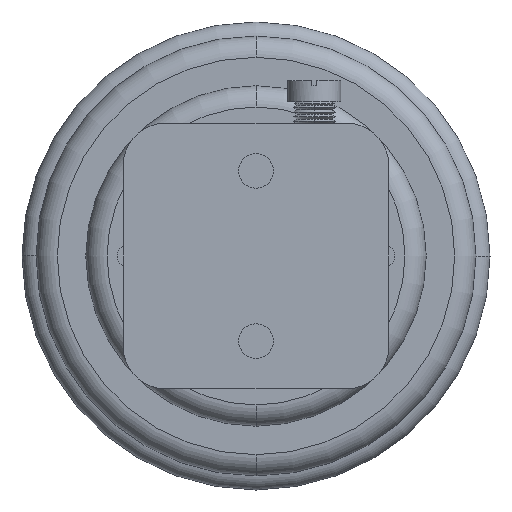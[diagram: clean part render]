
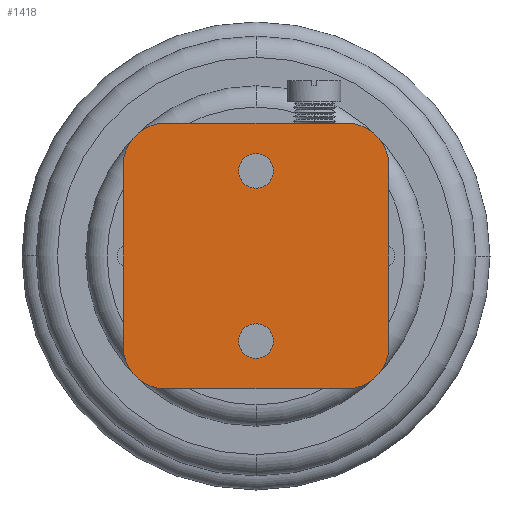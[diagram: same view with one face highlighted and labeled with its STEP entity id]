
A CAD part, front view. The second image highlights one B-rep face of the part: STEP entity #1418.
In plain terms, the highlighted planar face has unit normal (0, -1, 0).
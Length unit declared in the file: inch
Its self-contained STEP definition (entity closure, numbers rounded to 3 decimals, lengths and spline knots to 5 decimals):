
#731 = EDGE_CURVE ( 'NONE', #13173, #13142, #5303, .T. ) ;
#736 = EDGE_CURVE ( 'NONE', #12907, #13242, #5311, .T. ) ;
#739 = EDGE_CURVE ( 'NONE', #13226, #12866, #5317, .T. ) ;
#748 = EDGE_CURVE ( 'NONE', #13247, #13230, #5331, .T. ) ;
#749 = EDGE_CURVE ( 'NONE', #13226, #13242, #5326, .T. ) ;
#758 = EDGE_CURVE ( 'NONE', #13132, #13209, #5348, .T. ) ;
#766 = EDGE_CURVE ( 'NONE', #13215, #13234, #5361, .T. ) ;
#795 = EDGE_CURVE ( 'NONE', #13209, #13132, #5402, .T. ) ;
#828 = EDGE_CURVE ( 'NONE', #12907, #13142, #5449, .T. ) ;
#843 = EDGE_CURVE ( 'NONE', #13247, #12866, #5468, .T. ) ;
#852 = EDGE_CURVE ( 'NONE', #13173, #13230, #5483, .T. ) ;
#860 = EDGE_CURVE ( 'NONE', #13234, #13215, #5494, .T. ) ;
#1418 = ADVANCED_FACE ( 'NONE', ( #9097, #9096, #9092 ), #10147, .F. ) ;
#2309 = AXIS2_PLACEMENT_3D ( 'NONE', #6483, #6484, #6485 ) ;
#2312 = AXIS2_PLACEMENT_3D ( 'NONE', #6505, #6506, #6507 ) ;
#2316 = AXIS2_PLACEMENT_3D ( 'NONE', #6524, #6525, #6526 ) ;
#2332 = AXIS2_PLACEMENT_3D ( 'NONE', #6597, #6598, #6599 ) ;
#2351 = AXIS2_PLACEMENT_3D ( 'NONE', #6684, #6685, #6686 ) ;
#2361 = AXIS2_PLACEMENT_3D ( 'NONE', #6725, #6726, #6727 ) ;
#2365 = AXIS2_PLACEMENT_3D ( 'NONE', #6743, #6744, #6745 ) ;
#2370 = AXIS2_PLACEMENT_3D ( 'NONE', #6766, #6767, #6768 ) ;
#4332 = ORIENTED_EDGE ( 'NONE', *, *, #795, .T. ) ;
#4336 = ORIENTED_EDGE ( 'NONE', *, *, #749, .T. ) ;
#4339 = ORIENTED_EDGE ( 'NONE', *, *, #736, .F. ) ;
#4384 = ORIENTED_EDGE ( 'NONE', *, *, #739, .F. ) ;
#4415 = ORIENTED_EDGE ( 'NONE', *, *, #731, .F. ) ;
#4423 = ORIENTED_EDGE ( 'NONE', *, *, #828, .T. ) ;
#4434 = ORIENTED_EDGE ( 'NONE', *, *, #758, .T. ) ;
#4447 = ORIENTED_EDGE ( 'NONE', *, *, #852, .T. ) ;
#4449 = ORIENTED_EDGE ( 'NONE', *, *, #843, .T. ) ;
#4451 = ORIENTED_EDGE ( 'NONE', *, *, #860, .T. ) ;
#4452 = ORIENTED_EDGE ( 'NONE', *, *, #766, .T. ) ;
#4453 = ORIENTED_EDGE ( 'NONE', *, *, #748, .F. ) ;
#4614 = EDGE_LOOP ( 'NONE', ( #4434, #4332 ) ) ;
#4643 = EDGE_LOOP ( 'NONE', ( #4451, #4452 ) ) ;
#5303 = LINE ( 'NONE', #6389, #5308 ) ;
#5308 = VECTOR ( 'NONE', #6438, 39.37008 ) ;
#5311 = LINE ( 'NONE', #6448, #5315 ) ;
#5315 = VECTOR ( 'NONE', #6447, 39.37008 ) ;
#5317 = LINE ( 'NONE', #6452, #5319 ) ;
#5319 = VECTOR ( 'NONE', #6453, 39.37008 ) ;
#5326 = CIRCLE ( 'NONE', #2309, 0.5 ) ;
#5331 = LINE ( 'NONE', #6479, #5334 ) ;
#5334 = VECTOR ( 'NONE', #6480, 39.37008 ) ;
#5348 = CIRCLE ( 'NONE', #2312, 0.203 ) ;
#5361 = CIRCLE ( 'NONE', #2316, 0.203 ) ;
#5402 = CIRCLE ( 'NONE', #2332, 0.203 ) ;
#5449 = CIRCLE ( 'NONE', #2351, 0.5 ) ;
#5468 = CIRCLE ( 'NONE', #2361, 0.5 ) ;
#5483 = CIRCLE ( 'NONE', #2365, 0.5 ) ;
#5494 = CIRCLE ( 'NONE', #2370, 0.203 ) ;
#6389 = CARTESIAN_POINT ( 'NONE',  ( 1.5625, -2.255, -1.5625 ) ) ;
#6438 = DIRECTION ( 'NONE',  ( 0., 0., -1. ) ) ;
#6447 = DIRECTION ( 'NONE',  ( -1., 0., 0. ) ) ;
#6448 = CARTESIAN_POINT ( 'NONE',  ( 1.5625, -2.255, -1.5625 ) ) ;
#6452 = CARTESIAN_POINT ( 'NONE',  ( -1.5625, -2.255, -1.5625 ) ) ;
#6453 = DIRECTION ( 'NONE',  ( 0., 0., 1. ) ) ;
#6479 = CARTESIAN_POINT ( 'NONE',  ( 1.5625, -2.255, 1.5625 ) ) ;
#6480 = DIRECTION ( 'NONE',  ( 1., 0., 0. ) ) ;
#6483 = CARTESIAN_POINT ( 'NONE',  ( -1.0625, -2.255, -1.0625 ) ) ;
#6484 = DIRECTION ( 'NONE',  ( 0., -1., 0. ) ) ;
#6485 = DIRECTION ( 'NONE',  ( -1., 0., 0. ) ) ;
#6505 = CARTESIAN_POINT ( 'NONE',  ( 0., -2.255, 1. ) ) ;
#6506 = DIRECTION ( 'NONE',  ( 0., 1., 0. ) ) ;
#6507 = DIRECTION ( 'NONE',  ( -1., 0., 0. ) ) ;
#6524 = CARTESIAN_POINT ( 'NONE',  ( 0., -2.255, -1. ) ) ;
#6525 = DIRECTION ( 'NONE',  ( 0., 1., 0. ) ) ;
#6526 = DIRECTION ( 'NONE',  ( -1., 0., 0. ) ) ;
#6597 = CARTESIAN_POINT ( 'NONE',  ( 0., -2.255, 1. ) ) ;
#6598 = DIRECTION ( 'NONE',  ( 0., 1., 0. ) ) ;
#6599 = DIRECTION ( 'NONE',  ( -1., 0., 0. ) ) ;
#6684 = CARTESIAN_POINT ( 'NONE',  ( 1.0625, -2.255, -1.0625 ) ) ;
#6685 = DIRECTION ( 'NONE',  ( 0., -1., 0. ) ) ;
#6686 = DIRECTION ( 'NONE',  ( -1., 0., 0. ) ) ;
#6725 = CARTESIAN_POINT ( 'NONE',  ( -1.0625, -2.255, 1.0625 ) ) ;
#6726 = DIRECTION ( 'NONE',  ( 0., -1., 0. ) ) ;
#6727 = DIRECTION ( 'NONE',  ( -1., 0., 0. ) ) ;
#6743 = CARTESIAN_POINT ( 'NONE',  ( 1.0625, -2.255, 1.0625 ) ) ;
#6744 = DIRECTION ( 'NONE',  ( 0., -1., 0. ) ) ;
#6745 = DIRECTION ( 'NONE',  ( -1., 0., 0. ) ) ;
#6766 = CARTESIAN_POINT ( 'NONE',  ( 0., -2.255, -1. ) ) ;
#6767 = DIRECTION ( 'NONE',  ( 0., 1., 0. ) ) ;
#6768 = DIRECTION ( 'NONE',  ( -1., 0., 0. ) ) ;
#8345 = AXIS2_PLACEMENT_3D ( 'NONE', #10145, #10143, #10148 ) ;
#9092 = FACE_OUTER_BOUND ( 'NONE', #13306, .T. ) ;
#9096 = FACE_BOUND ( 'NONE', #4643, .T. ) ;
#9097 = FACE_BOUND ( 'NONE', #4614, .T. ) ;
#10143 = DIRECTION ( 'NONE',  ( 0., 1., 0. ) ) ;
#10145 = CARTESIAN_POINT ( 'NONE',  ( -1.5625, -2.255, -1.5625 ) ) ;
#10147 = PLANE ( 'NONE',  #8345 ) ;
#10148 = DIRECTION ( 'NONE',  ( -1., 0., 0. ) ) ;
#12298 = CARTESIAN_POINT ( 'NONE',  ( -1.5625, -2.255, 1.0625 ) ) ;
#12339 = CARTESIAN_POINT ( 'NONE',  ( 1.0625, -2.255, -1.5625 ) ) ;
#12456 = CARTESIAN_POINT ( 'NONE',  ( -0.203, -2.255, 1. ) ) ;
#12462 = CARTESIAN_POINT ( 'NONE',  ( 1.5625, -2.255, -1.0625 ) ) ;
#12478 = CARTESIAN_POINT ( 'NONE',  ( 1.5625, -2.255, 1.0625 ) ) ;
#12492 = CARTESIAN_POINT ( 'NONE',  ( 0.203, -2.255, 1. ) ) ;
#12497 = CARTESIAN_POINT ( 'NONE',  ( 0.203, -2.255, -1. ) ) ;
#12508 = CARTESIAN_POINT ( 'NONE',  ( -1.5625, -2.255, -1.0625 ) ) ;
#12512 = CARTESIAN_POINT ( 'NONE',  ( 1.0625, -2.255, 1.5625 ) ) ;
#12516 = CARTESIAN_POINT ( 'NONE',  ( -0.203, -2.255, -1. ) ) ;
#12524 = CARTESIAN_POINT ( 'NONE',  ( -1.0625, -2.255, -1.5625 ) ) ;
#12529 = CARTESIAN_POINT ( 'NONE',  ( -1.0625, -2.255, 1.5625 ) ) ;
#12866 = VERTEX_POINT ( 'NONE', #12298 ) ;
#12907 = VERTEX_POINT ( 'NONE', #12339 ) ;
#13132 = VERTEX_POINT ( 'NONE', #12456 ) ;
#13142 = VERTEX_POINT ( 'NONE', #12462 ) ;
#13173 = VERTEX_POINT ( 'NONE', #12478 ) ;
#13209 = VERTEX_POINT ( 'NONE', #12492 ) ;
#13215 = VERTEX_POINT ( 'NONE', #12497 ) ;
#13226 = VERTEX_POINT ( 'NONE', #12508 ) ;
#13230 = VERTEX_POINT ( 'NONE', #12512 ) ;
#13234 = VERTEX_POINT ( 'NONE', #12516 ) ;
#13242 = VERTEX_POINT ( 'NONE', #12524 ) ;
#13247 = VERTEX_POINT ( 'NONE', #12529 ) ;
#13306 = EDGE_LOOP ( 'NONE', ( #4384, #4336, #4339, #4423, #4415, #4447, #4453, #4449 ) ) ;
